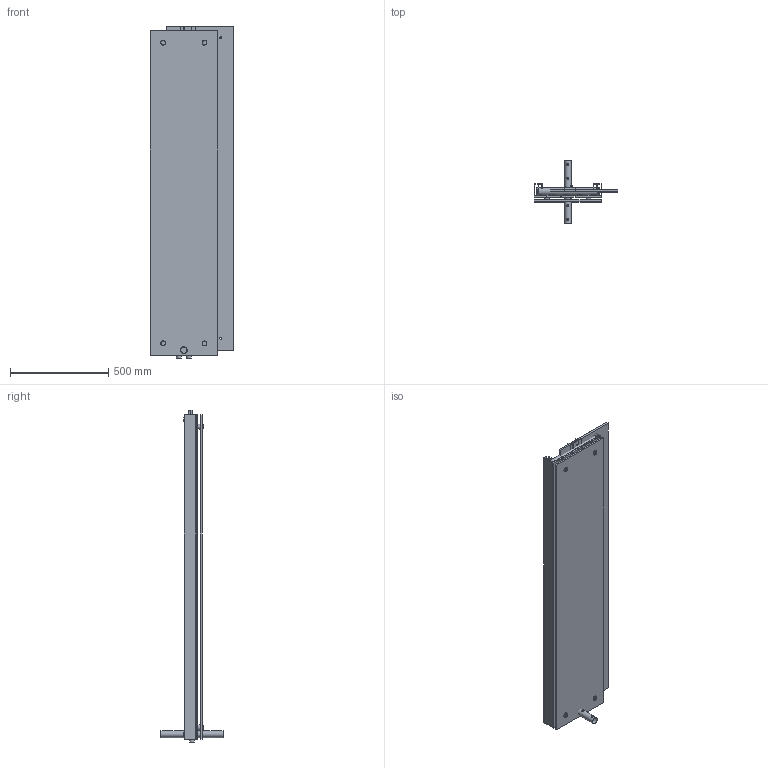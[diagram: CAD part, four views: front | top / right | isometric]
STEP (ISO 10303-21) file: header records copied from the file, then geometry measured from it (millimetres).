
FILE_DESCRIPTION( ( 'Unknown' ), '1' );
FILE_NAME( 'Y:/ProjektyAktualne/GRZEJNIKI I INNE/DESIGN PROGRAM/COSTA/COSTA 1.stp', 'Unknown', ( 'Unknown' ), ( 'Unknown' ), 'PSStep 10.1', 'Unknown', ' ' );
FILE_SCHEMA( ( 'AUTOMOTIVE_DESIGN { 1 0 10303 214 1 1 1 1 }' ) );
Length unit declared in the file: millimetre
Products named in the file (13): nakrêtka; Assem1; sworzeñ mocowania lustra; nakrêtka mocowania lustra; CALLE kolektor 340 D-50; mufka; Zaslepka fi 35 z gwintem ; rura 60x10  1650; CALLE kolektor 340; os³ona boczna; radiator tylny; uchwyt; szyba ozdobna
Bounding box: 422.82 x 316 x 1689.5 mm (x, y, z)
Volume: 14432548.1 mm3; surface area: 7518282.5 mm2
Topology: 44 solids, 44 shells, 642 faces, 1576 edges, 1078 vertices
Faces by surface type: plane 356, cylinder 182, cone 70, extrusion 20, torus 10, bspline 4
Full cylindrical faces by diameter (mm): 1 x18, 4.917 x6, 6 x6, 6.023 x20, 8 x18, 9 x3, 10 x8, 12 x6, 15 x4, 18.631 x5, 19 x3, 25 x20, 32 x4, 35 x9
Entity records: 11728 total; most frequent: CARTESIAN_POINT 6080, DIRECTION 786, ORIENTED_EDGE 686, EDGE_CURVE 343, EDGE_LOOP 326, AXIS2_PLACEMENT_3D 325, VERTEX_POINT 275, FACE_OUTER_BOUND 235
